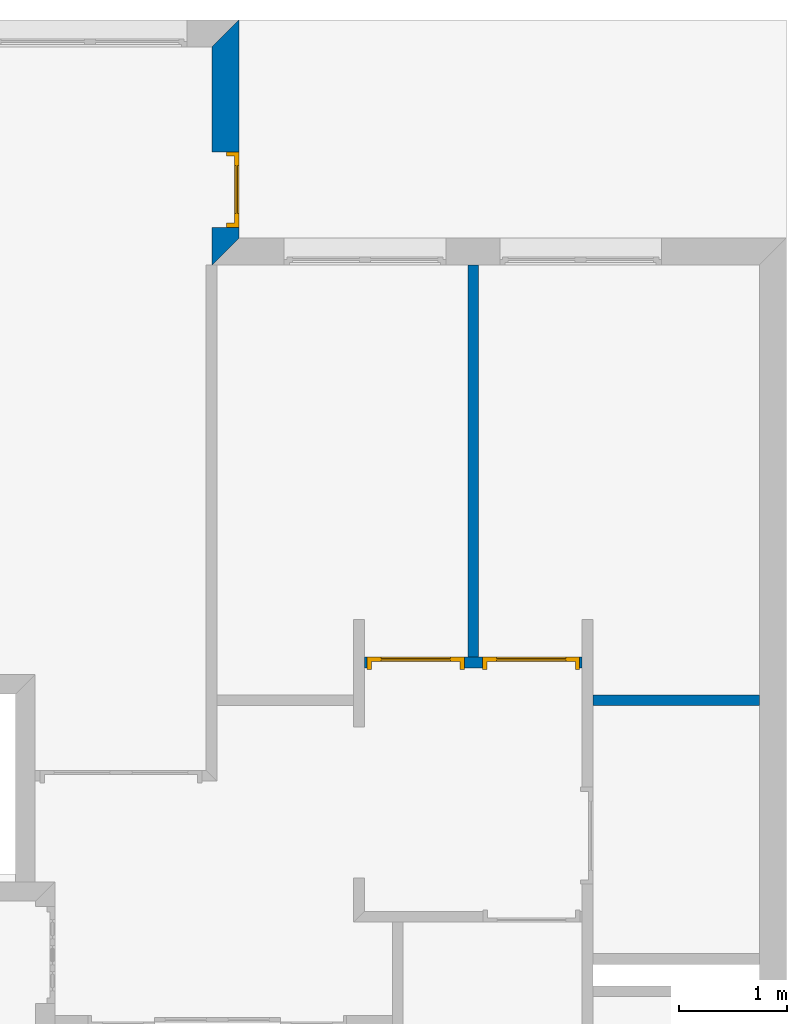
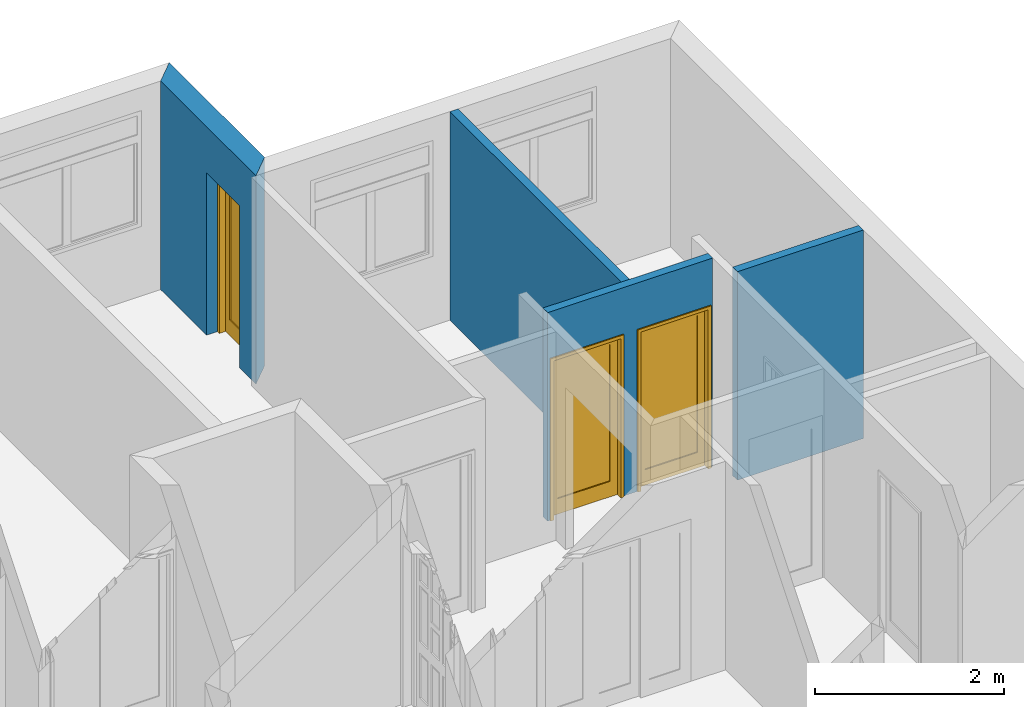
# One storey, part 12 of 13: 4 walls, 3 doors, 3 openings.
"""IFC2X3 building model written with IfcOpenShell, lengths in metres."""

import ifcopenshell
import ifcopenshell.guid

model = None  # the IFC model being written
_history = None  # IfcOwnerHistory: only IFC2X3 demands one
_inside = {}  # id of a spatial element -> (the spatial element, [elements in it])
_under = {}  # id of a project, library or spatial element -> (it, [spatial elements below it])
_declared = {}  # id of a project -> (the project, [libraries it declares])
_typed = {}  # id of a type object -> (the type object, [elements of that type])
_made_of = {}  # id of a material, layer set ... -> (it, [elements and type objects made of it])


def new_model(schema):
    """Start an empty IFC model of exactly this schema.

    Asked for "IFC4X3", IfcOpenShell would pick the latest addendum, in which some entities
    have other attributes; the version numbers below select the first issue.
    IFC2X3 requires an IfcOwnerHistory on every rooted entity: one is made here for all.
    """
    global model, _history
    if schema == "IFC4X3":
        model = ifcopenshell.file(schema_version=(4, 3, 0, 0))
    else:
        model = ifcopenshell.file(schema=schema)
    _inside.clear()
    _under.clear()
    _declared.clear()
    _typed.clear()
    _made_of.clear()
    _history = None
    if model.schema == "IFC2X3":
        org = make("IfcOrganization", Name="unknown")
        user = make(
            "IfcPersonAndOrganization",
            ThePerson=make("IfcPerson", FamilyName="unknown"),
            TheOrganization=org,
        )
        app = make(
            "IfcApplication",
            ApplicationDeveloper=org,
            Version="unknown",
            ApplicationFullName="unknown",
            ApplicationIdentifier="unknown",
        )
        _history = make(
            "IfcOwnerHistory",
            OwningUser=user,
            OwningApplication=app,
            ChangeAction="ADDED",
            CreationDate=0,
        )
    return model


def make(cls, **values):
    """One entity of the class cls with the attributes given. An attribute that is None is left unset."""
    return model.create_entity(
        cls, **{name: value for name, value in values.items() if value is not None}
    )


def entity(cls, *values):
    """Any entity or typed value of the class cls, its attributes in the order of the schema. None: left unset."""
    e = model.create_entity(cls)
    for i, value in enumerate(values):
        if value is not None:
            e[i] = value
    return e


def rooted(cls, **values):
    """An entity with a GlobalId (a new one), such as an element, a storey or a relation."""
    return make(cls, GlobalId=ifcopenshell.guid.new(), OwnerHistory=_history, **values)


def si_unit(unit_type, name, prefix=None):
    """IfcSIUnit, for example si_unit("LENGTHUNIT", "METRE", prefix="MILLI")."""
    return make("IfcSIUnit", UnitType=unit_type, Prefix=prefix, Name=name)


def converted_unit(unit_type, name, factor, base, dimensions=None, offset=None):
    """IfcConversionBasedUnit, such as the inch: factor (a typed value) times the base unit."""
    return make(
        "IfcConversionBasedUnit"
        if offset is None
        else "IfcConversionBasedUnitWithOffset",
        ConversionOffset=offset,
        Dimensions=None
        if dimensions is None
        else entity("IfcDimensionalExponents", *dimensions),
        UnitType=unit_type,
        Name=name,
        ConversionFactor=make(
            "IfcMeasureWithUnit", ValueComponent=factor, UnitComponent=base
        ),
    )


def assignment(units):
    """IfcUnitAssignment: the units of a project."""
    return None if units is None else make("IfcUnitAssignment", Units=units)


def point(xyz):
    """IfcCartesianPoint."""
    return None if xyz is None else make("IfcCartesianPoint", Coordinates=xyz)


def direction(xyz):
    """IfcDirection."""
    return None if xyz is None else make("IfcDirection", DirectionRatios=xyz)


def frame(location, z_axis=None, x_axis=None):
    """IfcAxis2Placement3D, a coordinate frame: its origin and axes. An axis left out is left unset."""
    return make(
        "IfcAxis2Placement3D",
        Location=point(location),
        Axis=direction(z_axis),
        RefDirection=direction(x_axis),
    )


def frame_2d(location, x_axis=None):
    """IfcAxis2Placement2D, a coordinate frame in the plane: its origin and x axis."""
    return make(
        "IfcAxis2Placement2D", Location=point(location), RefDirection=direction(x_axis)
    )


def origin_with_axes():
    """The frame at (0, 0, 0) with the z axis (0, 0, 1) and the x axis (1, 0, 0) written out."""
    return frame((0.0, 0.0, 0.0), z_axis=(0.0, 0.0, 1.0), x_axis=(1.0, 0.0, 0.0))


def place(relative_to, where):
    """IfcLocalPlacement: puts the frame where relative to a parent placement (None: the world)."""
    return make(
        "IfcLocalPlacement", PlacementRelTo=relative_to, RelativePlacement=where
    )


def context(
    kind, dimensions, precision=None, world=None, true_north=None, identifier=None
):
    """IfcGeometricRepresentationContext, for example the 3D "Model" context."""
    return make(
        "IfcGeometricRepresentationContext",
        ContextIdentifier=identifier,
        ContextType=kind,
        CoordinateSpaceDimension=dimensions,
        Precision=precision,
        WorldCoordinateSystem=world,
        TrueNorth=true_north,
    )


def project(units=None, contexts=None):
    """IfcProject with its units and contexts."""
    return rooted(
        "IfcProject",
        Name="project",
        RepresentationContexts=contexts,
        UnitsInContext=assignment(units),
    )


def spatial(cls, under=None, at=None, **own):
    """A site, building, storey or space (cls), placed at a placement, below another one or the project."""
    s = rooted(cls, ObjectPlacement=at, **own)
    if under is not None:
        _under.setdefault(under.id(), (under, []))[1].append(s)
    return s


def polyline(points):
    """IfcPolyline through the points."""
    return make("IfcPolyline", Points=[point(p) for p in points])


def profile(cls, at=None, kind="AREA", **sizes):
    """A parametric profile (cls). Its sizes go by their IFC names, for example OverallWidth=200.0."""
    return make(cls, ProfileType=kind, Position=at, **sizes)


def rectangle(**sizes):
    """IfcRectangleProfileDef."""
    return profile("IfcRectangleProfileDef", **sizes)


def outline(outer, holes=None, kind="AREA"):
    """IfcArbitraryClosedProfileDef: a profile drawn as a closed curve; with holes, ...WithVoids."""
    if holes is None:
        return make("IfcArbitraryClosedProfileDef", ProfileType=kind, OuterCurve=outer)
    return make(
        "IfcArbitraryProfileDefWithVoids",
        ProfileType=kind,
        OuterCurve=outer,
        InnerCurves=holes,
    )


def extrude(swept, where, along, depth):
    """IfcExtrudedAreaSolid: the profile swept, set in the frame where, extruded along a direction by depth."""
    return make(
        "IfcExtrudedAreaSolid",
        SweptArea=swept,
        Position=where,
        ExtrudedDirection=direction(along),
        Depth=depth,
    )


def faces_of(points, faces, orient=None, outer=None):
    """IfcFace entities. A face is a list of loops; a loop is a list of indices into points, from 0.

    orient and outer hold one flag for each loop. By default every Orientation is true, the
    first loop of a face is its IfcFaceOuterBound and the others are IfcFaceBound.
    """
    made = []
    for i, loops in enumerate(faces):
        bounds = []
        for j, loop in enumerate(loops):
            is_outer = j == 0 if outer is None else outer[i][j]
            bounds.append(
                make(
                    "IfcFaceOuterBound" if is_outer else "IfcFaceBound",
                    Bound=make("IfcPolyLoop", Polygon=[points[k] for k in loop]),
                    Orientation=True if orient is None else orient[i][j],
                )
            )
        made.append(make("IfcFace", Bounds=bounds))
    return made


def faceted_brep(points, faces, orient=None, outer=None, voids=None):
    """IfcFacetedBrep: a solid bounded by flat faces; with voids (closed shells), ...WithVoids."""
    shared = [point(p) for p in points]
    hull = make("IfcClosedShell", CfsFaces=faces_of(shared, faces, orient, outer))
    if voids is None:
        return make("IfcFacetedBrep", Outer=hull)
    return make(
        "IfcFacetedBrepWithVoids",
        Outer=hull,
        Voids=[
            make(cls, CfsFaces=faces_of(shared, fs, o, b)) for cls, fs, o, b in voids
        ],
    )


def shape(context_of_items, identifier, shape_type, items):
    """IfcShapeRepresentation: the items that make up one representation, for example the "Body"."""
    return make(
        "IfcShapeRepresentation",
        ContextOfItems=context_of_items,
        RepresentationIdentifier=identifier,
        RepresentationType=shape_type,
        Items=items,
    )


def source(mapping_origin, context_of_items, identifier, shape_type, items):
    """IfcRepresentationMap: a shape defined once, which mapped items show again and again."""
    return make(
        "IfcRepresentationMap",
        MappingOrigin=mapping_origin,
        MappedRepresentation=shape(context_of_items, identifier, shape_type, items),
    )


def transform(
    local_origin,
    x_axis=None,
    y_axis=None,
    z_axis=None,
    scale=None,
    scale2=None,
    scale3=None,
    uniform=True,
):
    """IfcCartesianTransformationOperator3D, or its non-uniform kind. x_axis, y_axis, z_axis: its Axis1, 2, 3."""
    if uniform:
        return make(
            "IfcCartesianTransformationOperator3D",
            Axis1=direction(x_axis),
            Axis2=direction(y_axis),
            LocalOrigin=point(local_origin),
            Scale=scale,
            Axis3=direction(z_axis),
        )
    return make(
        "IfcCartesianTransformationOperator3DnonUniform",
        Axis1=direction(x_axis),
        Axis2=direction(y_axis),
        LocalOrigin=point(local_origin),
        Scale=scale,
        Axis3=direction(z_axis),
        Scale2=scale2,
        Scale3=scale3,
    )


def mapped(mapping_source, mapping_target):
    """IfcMappedItem: shows the shape of a source again, moved by a transform."""
    return make(
        "IfcMappedItem", MappingSource=mapping_source, MappingTarget=mapping_target
    )


def material(Name=None, Category=None):
    """IfcMaterial."""
    return make("IfcMaterial", Name=Name, Category=Category)


def layer(
    of_material, thickness, ventilated=None, Name=None, Category=None, Priority=None
):
    """IfcMaterialLayer: one layer of a wall or slab, of a material (None: an air gap)."""
    return make(
        "IfcMaterialLayer",
        Material=of_material,
        LayerThickness=thickness,
        IsVentilated=ventilated,
        Name=Name,
        Category=Category,
        Priority=Priority,
    )


def layer_set(layers, Name=None):
    """IfcMaterialLayerSet."""
    return make("IfcMaterialLayerSet", MaterialLayers=layers, LayerSetName=Name)


def layer_usage(for_layer_set, set_direction, sense, offset, extent=None):
    """IfcMaterialLayerSetUsage: how a layer set lies in its element."""
    return make(
        "IfcMaterialLayerSetUsage",
        ForLayerSet=for_layer_set,
        LayerSetDirection=set_direction,
        DirectionSense=sense,
        OffsetFromReferenceLine=offset,
        ReferenceExtent=extent,
    )


def made_of(thing, what):
    """Note that an element or type object is made of a material, layer set ...; save() writes the relation."""
    if what is not None:
        _made_of.setdefault(what.id(), (what, []))[1].append(thing)
    return thing


def type_object(cls, material=None, **own):
    """A type object (cls), such as IfcWallType, which elements share."""
    return made_of(rooted(cls, **own), material)


def element(
    cls,
    number,
    at=None,
    inside=None,
    cuts=None,
    type_object=None,
    material=None,
    context=None,
    identifier="Body",
    shape_type=None,
    held_by="IfcProductDefinitionShape",
    body=None,
    shapes=None,
    **own,
):
    """One element of the class cls, such as IfcWall. Its Tag is "e" and its number.

    at: its placement. inside: the storey or other place that contains it. cuts: it is an
    opening in that element (IfcRelVoidsElement). A single representation is given by context,
    identifier, shape_type and body (its items); several are given by shapes. held_by: the class
    of the entity that holds the representations. save() writes the other relations.
    """
    e = rooted(cls, Tag="e%d" % number, ObjectPlacement=at, **own)
    if body is not None:
        shapes = [shape(context, identifier, shape_type, body)]
    if shapes is not None:
        e.Representation = make(held_by, Representations=shapes)
    if inside is not None:
        _inside.setdefault(inside.id(), (inside, []))[1].append(e)
    if cuts is not None:
        rooted(
            "IfcRelVoidsElement", RelatingBuildingElement=cuts, RelatedOpeningElement=e
        )
    if type_object is not None:
        _typed.setdefault(type_object.id(), (type_object, []))[1].append(e)
    return made_of(e, material)


def fill(opening, filler):
    """IfcRelFillsElement: the door or window that sits in an opening."""
    return rooted(
        "IfcRelFillsElement",
        RelatingOpeningElement=opening,
        RelatedBuildingElement=filler,
    )


def aggregate(whole, parts):
    """IfcRelAggregates: a whole, such as a stair, and the parts it consists of."""
    return rooted("IfcRelAggregates", RelatingObject=whole, RelatedObjects=parts)


def save(model, path):
    """Write the relations noted so far, then the file.

    IfcRelAggregates (storeys below a building ...), IfcRelContainedInSpatialStructure (elements
    in a storey), IfcRelDefinesByType, IfcRelAssociatesMaterial and IfcRelDeclares: one each for
    every whole, place, type object, material and project.
    """
    for whole, parts in _under.values():
        aggregate(whole, parts)
    for where, things in _inside.values():
        rooted(
            "IfcRelContainedInSpatialStructure",
            RelatedElements=things,
            RelatingStructure=where,
        )
    for kind, things in _typed.values():
        rooted("IfcRelDefinesByType", RelatedObjects=things, RelatingType=kind)
    for what, things in _made_of.values():
        rooted("IfcRelAssociatesMaterial", RelatedObjects=things, RelatingMaterial=what)
    for by, libraries in _declared.values():
        rooted("IfcRelDeclares", RelatingContext=by, RelatedDefinitions=libraries)
    model.write(path)


model = new_model("IFC2X3")

# Units and contexts
context_of_model = context(None, 3, precision=1e-05, world=origin_with_axes(), true_north=direction((6.123234e-17, 1.0)))
plan_context = context("Plan", 3, precision=1e-05, world=origin_with_axes(), true_north=direction((6.123234e-17, 1.0)))
model_context = context("Model", 3, precision=1e-05, world=origin_with_axes(), true_north=direction((6.123234e-17, 1.0)))
ifc_project = project(units=[si_unit("LENGTHUNIT", "METRE"), si_unit("AREAUNIT", "SQUARE_METRE"), si_unit("VOLUMEUNIT", "CUBIC_METRE"), converted_unit("PLANEANGLEUNIT", "DEGREE", entity("IfcPlaneAngleMeasure", 0.017453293), si_unit("PLANEANGLEUNIT", "RADIAN"), dimensions=[0, 0, 0, 0, 0, 0, 0]), si_unit("SOLIDANGLEUNIT", "STERADIAN"), si_unit("MASSUNIT", "GRAM"), si_unit("TIMEUNIT", "SECOND"), si_unit("THERMODYNAMICTEMPERATUREUNIT", "DEGREE_CELSIUS"), si_unit("LUMINOUSINTENSITYUNIT", "LUMEN")], contexts=[context_of_model, plan_context, model_context])

# Site, building, storey
site_placement = place(None, origin_with_axes())
site = spatial("IfcSite", under=ifc_project, at=site_placement, Name="Por defecto Sitio", CompositionType="ELEMENT")
building_placement = place(site_placement, origin_with_axes())
building = spatial("IfcBuilding", under=site, at=building_placement, Name="Por defecto Edificio", CompositionType="ELEMENT")
storey_placement = place(building_placement, frame((0.0, 0.0, 7.2), z_axis=(0.0, 0.0, 1.0), x_axis=(1.0, 0.0, 0.0)))
storey = spatial("IfcBuildingStorey", under=building, at=storey_placement, Name="Segunda", CompositionType="ELEMENT", Elevation=7.2)

# Wall, opening, door
ifc_material = material(Name="Ladrillo común")
ifc_layer_1 = layer(ifc_material, 0.25, ventilated="UNKNOWN")
ifc_layer_set_1 = layer_set([ifc_layer_1], Name="Ladrillo común")
ifc_layer_usage_1 = layer_usage(ifc_layer_set_1, "AXIS2", "NEGATIVE", 0.0)
wall_type_1 = type_object("IfcWallType", Name="Ladrillo común", PredefinedType="NOTDEFINED")
wall_1_placement = place(storey_placement, frame((10.956053, 15.472599, 0.0), z_axis=(0.0, 0.0, 1.0), x_axis=(0.0, -1.0, 0.0)))
wall_1 = element("IfcWallStandardCase", 1, at=wall_1_placement, inside=storey, type_object=wall_type_1, material=ifc_layer_usage_1, Name="Muro-015", context=context_of_model, shape_type="SweptSolid", body=[
    extrude(outline(polyline([(0.25, -0.25), (2.2734265, -0.25), (2.0234265, 0.0), (0.0, 0.0), (0.25, -0.25)])), origin_with_axes(), (0.0, 0.0, 1.0), 2.7),
])
opening_1_placement = place(wall_1_placement, frame((1.5733904, -0.25, 0.0), z_axis=(0.0, 0.0, 1.0), x_axis=(1.0, 0.0, 0.0)))
opening_1 = element("IfcOpeningElement", 2, at=opening_1_placement, cuts=wall_1, ObjectType="Opening", context=model_context, shape_type="SweptSolid", body=[
    extrude(rectangle(XDim=0.7, YDim=2.1, at=frame_2d((0.0, 1.05), x_axis=(-1.0, 0.0))), frame((0.0, 0.0, 0.0), z_axis=(0.0, 1.0, 0.0), x_axis=(-1.0, 0.0, 0.0)), (0.0, 0.0, 1.0), 0.25),
])
door_style_1 = type_object("IfcDoorStyle", Name="P1 12", ConstructionType="NOTDEFINED", OperationType="SINGLE_SWING_RIGHT", ParameterTakesPrecedence=False, Sizeable=False)
shared_shape_1 = source(origin_with_axes(), model_context, "Body", "Brep", [
    faceted_brep([(0.04, 0.075, 0.0), (0.04, 0.075, 2.06), (0.04, 0.0, 2.06), (0.04, 0.0, 0.0), (0.028, 0.075, 2.06), (0.028, 0.075, 0.0), (0.028, 0.115, 2.06), (0.0, 0.115, 2.06), (0.0, 0.0, 2.06), (0.0, 0.0, 0.0), (0.0, 0.115, 0.0), (0.028, 0.115, 0.0)], [[[0, 1, 2, 3]], [[4, 1, 0, 5]], [[4, 6, 7, 8, 2, 1]], [[9, 3, 2, 8]], [[5, 0, 3, 9, 10, 11]], [[6, 4, 5, 11]], [[6, 11, 10, 7]], [[8, 7, 10, 9]]]),
    faceted_brep([(0.672, 0.075, 2.06), (0.66, 0.075, 2.06), (0.66, 0.0, 2.06), (0.7, 0.0, 2.06), (0.7, 0.115, 2.06), (0.672, 0.115, 2.06), (0.672, 0.075, 0.0), (0.66, 0.075, 0.0), (0.66, 0.0, 0.0), (0.7, 0.0, 0.0), (0.7, 0.115, 0.0), (0.672, 0.115, 0.0)], [[[0, 1, 2, 3, 4, 5]], [[1, 0, 6, 7]], [[1, 7, 8, 2]], [[8, 9, 3, 2]], [[9, 10, 4, 3]], [[11, 5, 4, 10]], [[0, 5, 11, 6]], [[6, 11, 10, 9, 8, 7]]]),
    faceted_brep([(0.028, 0.115, 2.072), (0.028, 0.115, 2.06), (0.0, 0.115, 2.06), (0.0, 0.115, 2.1), (0.7, 0.115, 2.1), (0.7, 0.115, 2.06), (0.672, 0.115, 2.06), (0.672, 0.115, 2.072), (0.028, 0.075, 2.072), (0.028, 0.075, 2.06), (0.04, 0.075, 2.06), (0.04, 0.0, 2.06), (0.0, 0.0, 2.06), (0.0, 0.0, 2.1), (0.7, 0.0, 2.1), (0.7, 0.0, 2.06), (0.672, 0.075, 2.06), (0.66, 0.0, 2.06), (0.66, 0.075, 2.06), (0.672, 0.075, 2.072)], [[[0, 1, 2, 3, 4, 5, 6, 7]], [[1, 0, 8, 9]], [[9, 10, 11, 12, 2, 1]], [[13, 3, 2, 12]], [[14, 4, 3, 13]], [[15, 5, 4, 14]], [[16, 6, 5, 15, 17, 18]], [[7, 6, 16, 19]], [[0, 7, 19, 8]], [[16, 18, 10, 9, 8, 19]], [[10, 18, 17, 11]], [[14, 13, 12, 11, 17, 15]]]),
    faceted_brep([(0.672, 0.115, 0.2), (0.672, 0.075, 0.2), (0.572, 0.075, 0.2), (0.572, 0.115, 0.2), (0.672, 0.115, 1.972), (0.672, 0.075, 1.972), (0.572, 0.075, 1.972), (0.572, 0.115, 1.972)], [[[0, 1, 2, 3]], [[4, 5, 1, 0]], [[1, 5, 6, 2]], [[3, 2, 6, 7]], [[0, 3, 7, 4]], [[7, 6, 5, 4]]]),
    faceted_brep([(0.028, 0.115, 0.2), (0.028, 0.075, 0.2), (0.028, 0.075, 1.972), (0.028, 0.115, 1.972), (0.128, 0.115, 0.2), (0.128, 0.075, 0.2), (0.128, 0.075, 1.972), (0.128, 0.115, 1.972)], [[[0, 1, 2, 3]], [[4, 5, 1, 0]], [[1, 5, 6, 2]], [[3, 2, 6, 7]], [[0, 3, 7, 4]], [[7, 6, 5, 4]]]),
    faceted_brep([(0.672, 0.115, 0.0), (0.672, 0.075, 0.0), (0.028, 0.075, 0.0), (0.028, 0.115, 0.0), (0.672, 0.115, 0.2), (0.672, 0.075, 0.2), (0.572, 0.075, 0.2), (0.128, 0.075, 0.2), (0.028, 0.075, 0.2), (0.028, 0.115, 0.2), (0.128, 0.115, 0.2), (0.572, 0.115, 0.2)], [[[0, 1, 2, 3]], [[4, 5, 1, 0]], [[1, 5, 6, 7, 8, 2]], [[3, 2, 8, 9]], [[0, 3, 9, 10, 11, 4]], [[11, 6, 5, 4]], [[10, 7, 6, 11]], [[9, 8, 7, 10]]]),
    faceted_brep([(0.672, 0.115, 2.072), (0.672, 0.075, 2.072), (0.672, 0.075, 1.972), (0.672, 0.115, 1.972), (0.028, 0.115, 2.072), (0.028, 0.075, 2.072), (0.028, 0.075, 1.972), (0.128, 0.075, 1.972), (0.572, 0.075, 1.972), (0.572, 0.115, 1.972), (0.128, 0.115, 1.972), (0.028, 0.115, 1.972)], [[[0, 1, 2, 3]], [[4, 5, 1, 0]], [[1, 5, 6, 7, 8, 2]], [[3, 2, 8, 9]], [[0, 3, 9, 10, 11, 4]], [[11, 6, 5, 4]], [[10, 7, 6, 11]], [[9, 8, 7, 10]]]),
    faceted_brep([(0.572, 0.101, 0.2), (0.572, 0.089, 0.2), (0.128, 0.089, 0.2), (0.128, 0.101, 0.2), (0.572, 0.101, 1.972), (0.572, 0.089, 1.972), (0.128, 0.089, 1.972), (0.128, 0.101, 1.972)], [[[0, 1, 2, 3]], [[4, 5, 1, 0]], [[1, 5, 6, 2]], [[3, 2, 6, 7]], [[0, 3, 7, 4]], [[7, 6, 5, 4]]]),
])
door_1_placement = place(opening_1_placement, frame((-0.35, 0.135, 0.0), z_axis=(0.0, 0.0, 1.0), x_axis=(1.0, 0.0, 0.0)))
door_1 = element("IfcDoor", 3, at=door_1_placement, inside=storey, type_object=door_style_1, Name="P20", OverallHeight=2.1, OverallWidth=0.7, context=model_context, shape_type="MappedRepresentation", body=[
    mapped(shared_shape_1, transform((0.0, 0.0, 0.0), scale=1.0)),
])
fill(opening_1, door_1)

# Walls
ifc_layer_2 = layer(ifc_material, 0.1, ventilated="UNKNOWN")
ifc_layer_set_2 = layer_set([ifc_layer_2], Name="Ladrillo común")
ifc_layer_usage_2 = layer_usage(ifc_layer_set_2, "AXIS2", "NEGATIVE", 0.0)
wall_type_2 = type_object("IfcWallType", Name="Ladrillo común", PredefinedType="NOTDEFINED")
wall_2_placement = place(storey_placement, frame((13.079835, 9.4609196, 0.0), z_axis=(0.0, 0.0, 1.0), x_axis=(0.0, 1.0, 0.0)))
element("IfcWallStandardCase", 4, at=wall_2_placement, inside=storey, type_object=wall_type_2, material=ifc_layer_usage_2, Name="Muro-039", context=context_of_model, shape_type="SweptSolid", body=[
    extrude(outline(polyline([(0.1, -0.1), (3.738253, -0.1), (3.738253, 0.0), (0.1, 0.0), (0.1, -0.1)])), origin_with_axes(), (0.0, 0.0, 1.0), 2.7),
])
ifc_layer_usage_3 = layer_usage(ifc_layer_set_2, "AXIS2", "NEGATIVE", 0.0)
wall_3_placement = place(storey_placement, frame((14.139835, 9.2109196, 0.0), z_axis=(0.0, 0.0, 1.0), x_axis=(1.0, 0.0, 0.0)))
element("IfcWallStandardCase", 5, at=wall_3_placement, inside=storey, type_object=wall_type_2, material=ifc_layer_usage_3, Name="Muro-037", context=context_of_model, shape_type="SweptSolid", body=[
    extrude(outline(polyline([(0.1, -0.1), (1.6443351, -0.1), (1.6443351, 0.0), (0.1, 0.0), (0.1, -0.1)])), origin_with_axes(), (0.0, 0.0, 1.0), 2.7),
])

# Wall, openings, doors
ifc_layer_usage_4 = layer_usage(ifc_layer_set_2, "AXIS2", "NEGATIVE", 0.0)
wall_4_placement = place(storey_placement, frame((14.139835, 9.4609196, 0.0), z_axis=(0.0, 0.0, 1.0), x_axis=(-1.0, 0.0, 0.0)))
wall_4 = element("IfcWallStandardCase", 6, at=wall_4_placement, inside=storey, type_object=wall_type_2, material=ifc_layer_usage_4, Name="Muro-038", context=context_of_model, shape_type="SweptSolid", body=[
    extrude(outline(polyline([(0.0, -0.1), (2.02, -0.1), (2.02, 0.0), (0.0, 0.0), (0.0, -0.1)])), origin_with_axes(), (0.0, 0.0, 1.0), 2.7),
])
opening_2_placement = place(wall_4_placement, frame((0.47352068, -0.1, 0.0), z_axis=(0.0, 0.0, 1.0), x_axis=(1.0, 0.0, 0.0)))
opening_2 = element("IfcOpeningElement", 7, at=opening_2_placement, cuts=wall_4, ObjectType="Opening", context=model_context, shape_type="SweptSolid", body=[
    extrude(rectangle(XDim=0.9, YDim=2.1, at=frame_2d((0.0, 1.05), x_axis=(-1.0, 0.0))), frame((0.0, 0.0, 0.0), z_axis=(0.0, 1.0, 0.0), x_axis=(-1.0, 0.0, 0.0)), (0.0, 0.0, 1.0), 0.1),
])
opening_3_placement = place(wall_4_placement, frame((1.5434387, -0.1, 0.0), z_axis=(0.0, 0.0, 1.0), x_axis=(1.0, 0.0, 0.0)))
opening_3 = element("IfcOpeningElement", 8, at=opening_3_placement, cuts=wall_4, ObjectType="Opening", context=model_context, shape_type="SweptSolid", body=[
    extrude(rectangle(XDim=0.9, YDim=2.1, at=frame_2d((0.0, 1.05), x_axis=(1.0, 0.0))), frame((0.0, 0.0, 0.0), z_axis=(0.0, 1.0, 0.0), x_axis=(-1.0, 0.0, 0.0)), (0.0, 0.0, 1.0), 0.1),
])
door_style_2 = type_object("IfcDoorStyle", Name="P1 12", ConstructionType="NOTDEFINED", OperationType="SINGLE_SWING_RIGHT", ParameterTakesPrecedence=False, Sizeable=False)
shared_shape_2 = source(origin_with_axes(), model_context, "Body", "Brep", [
    faceted_brep([(0.04, 0.075, -2.4492936e-18), (0.04, 0.075, 2.06), (0.04, -9.3258734e-14, 2.06), (0.04, -9.3258734e-14, -7.0417191e-18), (0.028, 0.075, 2.06), (0.028, 0.075, -2.4492936e-18), (0.028, 0.115, 2.06), (2.220446e-16, 0.115, 2.06), (1.7763568e-15, -9.4146912e-14, 2.06), (0.0, 0.0, 0.0), (2.220446e-16, 0.115, 3.3744595e-33), (0.028, 0.115, 3.2707143e-33)], [[[0, 1, 2, 3]], [[4, 1, 0, 5]], [[4, 6, 7, 8, 2, 1]], [[9, 3, 2, 8]], [[5, 0, 3, 9, 10, 11]], [[6, 4, 5, 11]], [[6, 11, 10, 7]], [[8, 7, 10, 9]]]),
    faceted_brep([(0.872, 0.075, 2.06), (0.86, 0.075, 2.06), (0.86, -8.0824236e-14, 2.06), (0.9, -7.9936058e-14, 2.06), (0.9, 0.115, 2.06), (0.872, 0.115, 2.06), (0.872, 0.075, -2.4492936e-18), (0.86, 0.075, -2.4492936e-18), (0.86, -8.0824236e-14, -7.0417191e-18), (0.9, -7.9936058e-14, -7.0417191e-18), (0.9, 0.115, -3.3744595e-33), (0.872, 0.115, -3.1644931e-33)], [[[0, 1, 2, 3, 4, 5]], [[1, 0, 6, 7]], [[1, 7, 8, 2]], [[8, 9, 3, 2]], [[9, 10, 4, 3]], [[11, 5, 4, 10]], [[0, 5, 11, 6]], [[6, 11, 10, 9, 8, 7]]]),
    faceted_brep([(0.028, 0.115, 2.072), (0.028, 0.115, 2.06), (2.220446e-16, 0.115, 2.06), (2.220446e-16, 0.115, 2.1), (0.9, 0.115, 2.1), (0.9, 0.115, 2.06), (0.872, 0.115, 2.06), (0.872, 0.115, 2.072), (0.028, 0.075, 2.072), (0.028, 0.075, 2.06), (0.04, 0.075, 2.06), (0.04, -9.3258734e-14, 2.06), (1.7763568e-15, -9.4146912e-14, 2.06), (1.7763568e-15, -9.4146912e-14, 2.1), (0.9, -7.9936058e-14, 2.1), (0.9, -7.9936058e-14, 2.06), (0.872, 0.075, 2.06), (0.86, -8.0824236e-14, 2.06), (0.86, 0.075, 2.06), (0.872, 0.075, 2.072)], [[[0, 1, 2, 3, 4, 5, 6, 7]], [[1, 0, 8, 9]], [[9, 10, 11, 12, 2, 1]], [[13, 3, 2, 12]], [[14, 4, 3, 13]], [[15, 5, 4, 14]], [[16, 6, 5, 15, 17, 18]], [[7, 6, 16, 19]], [[0, 7, 19, 8]], [[16, 18, 10, 9, 8, 19]], [[10, 18, 17, 11]], [[14, 13, 12, 11, 17, 15]]]),
    faceted_brep([(0.872, 0.115, 0.2), (0.872, 0.075, 0.2), (0.772, 0.075, 0.2), (0.772, 0.115, 0.2), (0.872, 0.115, 1.972), (0.872, 0.075, 1.972), (0.772, 0.075, 1.972), (0.772, 0.115, 1.972)], [[[0, 1, 2, 3]], [[4, 5, 1, 0]], [[1, 5, 6, 2]], [[3, 2, 6, 7]], [[0, 3, 7, 4]], [[7, 6, 5, 4]]]),
    faceted_brep([(0.028, 0.115, 0.2), (0.028, 0.075, 0.2), (0.028, 0.075, 1.972), (0.028, 0.115, 1.972), (0.128, 0.115, 0.2), (0.128, 0.075, 0.2), (0.128, 0.075, 1.972), (0.128, 0.115, 1.972)], [[[0, 1, 2, 3]], [[4, 5, 1, 0]], [[1, 5, 6, 2]], [[3, 2, 6, 7]], [[0, 3, 7, 4]], [[7, 6, 5, 4]]]),
    faceted_brep([(0.872, 0.115, -3.1644931e-33), (0.872, 0.075, -2.4492936e-18), (0.028, 0.075, -2.4492936e-18), (0.028, 0.115, 3.1644931e-33), (0.872, 0.115, 0.2), (0.872, 0.075, 0.2), (0.772, 0.075, 0.2), (0.128, 0.075, 0.2), (0.028, 0.075, 0.2), (0.028, 0.115, 0.2), (0.128, 0.115, 0.2), (0.772, 0.115, 0.2)], [[[0, 1, 2, 3]], [[4, 5, 1, 0]], [[1, 5, 6, 7, 8, 2]], [[3, 2, 8, 9]], [[0, 3, 9, 10, 11, 4]], [[11, 6, 5, 4]], [[10, 7, 6, 11]], [[9, 8, 7, 10]]]),
    faceted_brep([(0.872, 0.115, 2.072), (0.872, 0.075, 2.072), (0.872, 0.075, 1.972), (0.872, 0.115, 1.972), (0.028, 0.115, 2.072), (0.028, 0.075, 2.072), (0.028, 0.075, 1.972), (0.128, 0.075, 1.972), (0.772, 0.075, 1.972), (0.772, 0.115, 1.972), (0.128, 0.115, 1.972), (0.028, 0.115, 1.972)], [[[0, 1, 2, 3]], [[4, 5, 1, 0]], [[1, 5, 6, 7, 8, 2]], [[3, 2, 8, 9]], [[0, 3, 9, 10, 11, 4]], [[11, 6, 5, 4]], [[10, 7, 6, 11]], [[9, 8, 7, 10]]]),
    faceted_brep([(0.772, 0.101, 0.2), (0.772, 0.089, 0.2), (0.128, 0.089, 0.2), (0.128, 0.101, 0.2), (0.772, 0.101, 1.972), (0.772, 0.089, 1.972), (0.128, 0.089, 1.972), (0.128, 0.101, 1.972)], [[[0, 1, 2, 3]], [[4, 5, 1, 0]], [[1, 5, 6, 2]], [[3, 2, 6, 7]], [[0, 3, 7, 4]], [[7, 6, 5, 4]]]),
])
door_2_placement = place(opening_3_placement, frame((0.45, 0.115, 0.0), z_axis=(0.0, 0.0, 1.0), x_axis=(-1.0, 0.0, 0.0)))
door_2 = element("IfcDoor", 9, at=door_2_placement, inside=storey, type_object=door_style_2, Name="P22", OverallHeight=2.1, OverallWidth=0.9, context=model_context, shape_type="MappedRepresentation", body=[
    mapped(shared_shape_2, transform((0.0, 0.0, 0.0), scale=1.0)),
])
fill(opening_3, door_2)
door_style_3 = type_object("IfcDoorStyle", Name="P1 12", ConstructionType="NOTDEFINED", OperationType="SINGLE_SWING_LEFT", ParameterTakesPrecedence=False, Sizeable=False)
shared_shape_3 = source(origin_with_axes(), model_context, "Body", "Brep", [
    faceted_brep([(0.86, 0.075, -3.6739404e-18), (0.86, 0.0, 9.184851e-19), (0.86, 0.0, 2.06), (0.86, 0.075, 2.06), (0.872, 0.075, -3.6739404e-18), (0.872, 0.115, -6.123234e-18), (0.9, 0.115, -6.123234e-18), (0.9, 0.0, 9.184851e-19), (0.9, 0.0, 2.06), (0.872, 0.075, 2.06), (0.9, 0.115, 2.06), (0.872, 0.115, 2.06)], [[[0, 1, 2, 3]], [[4, 5, 6, 7, 1, 0]], [[7, 8, 2, 1]], [[9, 3, 2, 8, 10, 11]], [[9, 4, 0, 3]], [[11, 5, 4, 9]], [[11, 10, 6, 5]], [[8, 7, 6, 10]]]),
    faceted_brep([(0.028, 0.075, 2.06), (0.028, 0.115, 2.06), (0.0, 0.115, 2.06), (0.0, 0.0, 2.06), (0.04, 0.0, 2.06), (0.04, 0.075, 2.06), (0.028, 0.075, -3.6739404e-18), (0.028, 0.115, -6.123234e-18), (0.0, 0.115, -6.123234e-18), (0.0, 0.0, 0.0), (0.04, 0.0, 9.184851e-19), (0.04, 0.075, -3.6739404e-18)], [[[0, 1, 2, 3, 4, 5]], [[0, 6, 7, 1]], [[7, 8, 2, 1]], [[9, 3, 2, 8]], [[10, 4, 3, 9]], [[5, 4, 10, 11]], [[5, 11, 6, 0]], [[6, 11, 10, 9, 8, 7]]]),
    faceted_brep([(0.872, 0.115, 2.072), (0.028, 0.115, 2.072), (0.028, 0.115, 2.06), (0.0, 0.115, 2.06), (0.0, 0.115, 2.1), (0.9, 0.115, 2.1), (0.9, 0.115, 2.06), (0.872, 0.115, 2.06), (0.872, 0.075, 2.072), (0.028, 0.075, 2.072), (0.028, 0.075, 2.06), (0.04, 0.075, 2.06), (0.04, 0.0, 2.06), (0.0, 0.0, 2.06), (0.0, 0.0, 2.1), (0.9, 0.0, 2.1), (0.9, 0.0, 2.06), (0.872, 0.075, 2.06), (0.86, 0.0, 2.06), (0.86, 0.075, 2.06)], [[[0, 1, 2, 3, 4, 5, 6, 7]], [[0, 8, 9, 1]], [[1, 9, 10, 2]], [[10, 11, 12, 13, 3, 2]], [[13, 14, 4, 3]], [[14, 15, 5, 4]], [[15, 16, 6, 5]], [[17, 7, 6, 16, 18, 19]], [[7, 17, 8, 0]], [[10, 9, 8, 17, 19, 11]], [[19, 18, 12, 11]], [[14, 13, 12, 18, 16, 15]]]),
    faceted_brep([(0.028, 0.115, 0.2), (0.128, 0.115, 0.2), (0.128, 0.075, 0.2), (0.028, 0.075, 0.2), (0.028, 0.115, 1.972), (0.128, 0.115, 1.972), (0.128, 0.075, 1.972), (0.028, 0.075, 1.972)], [[[0, 1, 2, 3]], [[0, 4, 5, 1]], [[1, 5, 6, 2]], [[3, 2, 6, 7]], [[4, 0, 3, 7]], [[5, 4, 7, 6]]]),
    faceted_brep([(0.872, 0.115, 0.2), (0.872, 0.115, 1.972), (0.872, 0.075, 1.972), (0.872, 0.075, 0.2), (0.772, 0.115, 0.2), (0.772, 0.115, 1.972), (0.772, 0.075, 1.972), (0.772, 0.075, 0.2)], [[[0, 1, 2, 3]], [[0, 4, 5, 1]], [[1, 5, 6, 2]], [[3, 2, 6, 7]], [[4, 0, 3, 7]], [[5, 4, 7, 6]]]),
    faceted_brep([(0.028, 0.115, -6.123234e-18), (0.872, 0.115, -6.123234e-18), (0.872, 0.075, -3.6739404e-18), (0.028, 0.075, -3.6739404e-18), (0.028, 0.115, 0.2), (0.128, 0.115, 0.2), (0.772, 0.115, 0.2), (0.872, 0.115, 0.2), (0.872, 0.075, 0.2), (0.772, 0.075, 0.2), (0.128, 0.075, 0.2), (0.028, 0.075, 0.2)], [[[0, 1, 2, 3]], [[0, 4, 5, 6, 7, 1]], [[1, 7, 8, 2]], [[3, 2, 8, 9, 10, 11]], [[4, 0, 3, 11]], [[5, 4, 11, 10]], [[6, 5, 10, 9]], [[7, 6, 9, 8]]]),
    faceted_brep([(0.028, 0.115, 2.072), (0.028, 0.115, 1.972), (0.028, 0.075, 1.972), (0.028, 0.075, 2.072), (0.872, 0.115, 2.072), (0.872, 0.115, 1.972), (0.772, 0.115, 1.972), (0.128, 0.115, 1.972), (0.128, 0.075, 1.972), (0.772, 0.075, 1.972), (0.872, 0.075, 1.972), (0.872, 0.075, 2.072)], [[[0, 1, 2, 3]], [[0, 4, 5, 6, 7, 1]], [[1, 7, 8, 2]], [[3, 2, 8, 9, 10, 11]], [[4, 0, 3, 11]], [[5, 4, 11, 10]], [[6, 5, 10, 9]], [[7, 6, 9, 8]]]),
    faceted_brep([(0.128, 0.101, 0.2), (0.772, 0.101, 0.2), (0.772, 0.089, 0.2), (0.128, 0.089, 0.2), (0.128, 0.101, 1.972), (0.772, 0.101, 1.972), (0.772, 0.089, 1.972), (0.128, 0.089, 1.972)], [[[0, 1, 2, 3]], [[0, 4, 5, 1]], [[1, 5, 6, 2]], [[3, 2, 6, 7]], [[4, 0, 3, 7]], [[5, 4, 7, 6]]]),
])
door_3_placement = place(opening_2_placement, frame((0.45, 0.115, 0.0), z_axis=(0.0, 0.0, 1.0), x_axis=(-1.0, 0.0, 0.0)))
door_3 = element("IfcDoor", 10, at=door_3_placement, inside=storey, type_object=door_style_3, Name="P21", OverallHeight=2.1, OverallWidth=0.9, context=model_context, shape_type="MappedRepresentation", body=[
    mapped(shared_shape_3, transform((0.0, 0.0, 0.0), scale=1.0)),
])
fill(opening_2, door_3)

save(model, "model.ifc")
